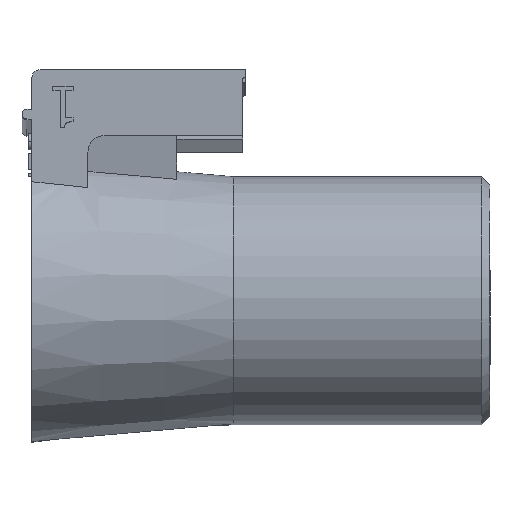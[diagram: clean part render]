
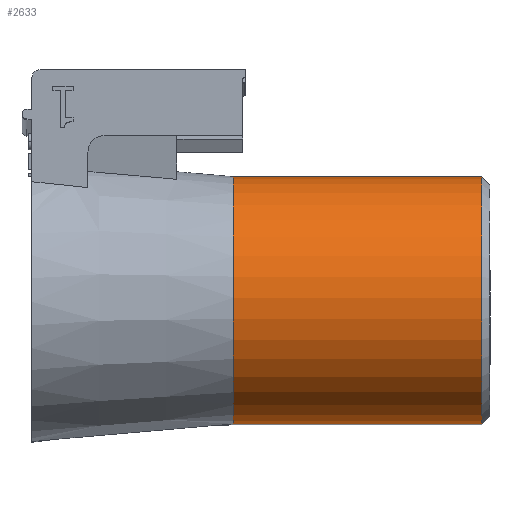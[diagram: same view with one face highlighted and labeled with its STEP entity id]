
A CAD part, front view. The second image highlights one B-rep face of the part: STEP entity #2633.
In plain terms, the highlighted cylindrical face has radius 7.5 mm (diameter 15 mm), a partial arc.
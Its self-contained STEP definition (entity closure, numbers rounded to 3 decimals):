
#49=CYLINDRICAL_SURFACE('',#2807,7.5);
#96=CIRCLE('',#2788,7.5);
#101=CIRCLE('',#2806,7.5);
#428=FACE_OUTER_BOUND('',#577,.T.);
#577=EDGE_LOOP('',(#2419,#2420,#2421,#2422));
#759=LINE('',#4456,#995);
#801=LINE('',#4611,#1037);
#995=VECTOR('',#3157,10.);
#1037=VECTOR('',#3311,10.);
#1250=VERTEX_POINT('',#4449);
#1252=VERTEX_POINT('',#4455);
#1284=VERTEX_POINT('',#4587);
#1293=VERTEX_POINT('',#4610);
#1584=EDGE_CURVE('',#1252,#1250,#759,.T.);
#1646=EDGE_CURVE('',#1252,#1284,#96,.T.);
#1657=EDGE_CURVE('',#1293,#1284,#801,.T.);
#1672=EDGE_CURVE('',#1293,#1250,#101,.T.);
#2419=ORIENTED_EDGE('',*,*,#1584,.T.);
#2420=ORIENTED_EDGE('',*,*,#1672,.F.);
#2421=ORIENTED_EDGE('',*,*,#1657,.T.);
#2422=ORIENTED_EDGE('',*,*,#1646,.F.);
#2633=ADVANCED_FACE('',(#428),#49,.T.);
#2788=AXIS2_PLACEMENT_3D('',#4588,#3295,#3296);
#2806=AXIS2_PLACEMENT_3D('',#4641,#3350,#3351);
#2807=AXIS2_PLACEMENT_3D('',#4642,#3352,#3353);
#3157=DIRECTION('',(1.,0.,0.));
#3295=DIRECTION('center_axis',(-1.,0.,0.));
#3296=DIRECTION('ref_axis',(0.,-1.,0.));
#3311=DIRECTION('',(-1.,0.,0.));
#3350=DIRECTION('center_axis',(1.,0.,0.));
#3351=DIRECTION('ref_axis',(0.,1.,0.));
#3352=DIRECTION('center_axis',(-1.,0.,0.));
#3353=DIRECTION('ref_axis',(0.,-1.,0.));
#4449=CARTESIAN_POINT('',(26.5,-0.314,-7.493));
#4455=CARTESIAN_POINT('',(11.43,-0.314,-7.493));
#4456=CARTESIAN_POINT('',(19.215,-0.314,-7.493));
#4587=CARTESIAN_POINT('',(11.43,0.,7.5));
#4588=CARTESIAN_POINT('Origin',(11.43,0.,
0.));
#4610=CARTESIAN_POINT('',(26.5,0.,7.5));
#4611=CARTESIAN_POINT('',(19.215,0.,7.5));
#4641=CARTESIAN_POINT('Origin',(26.5,0.,
0.));
#4642=CARTESIAN_POINT('Origin',(19.215,0.,
0.));
